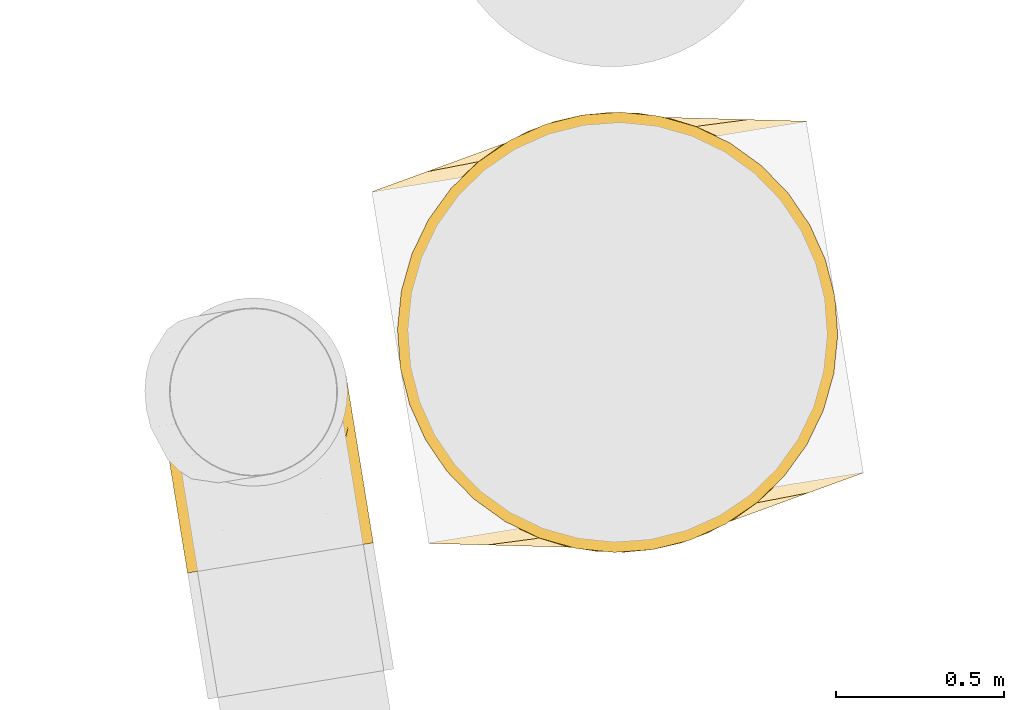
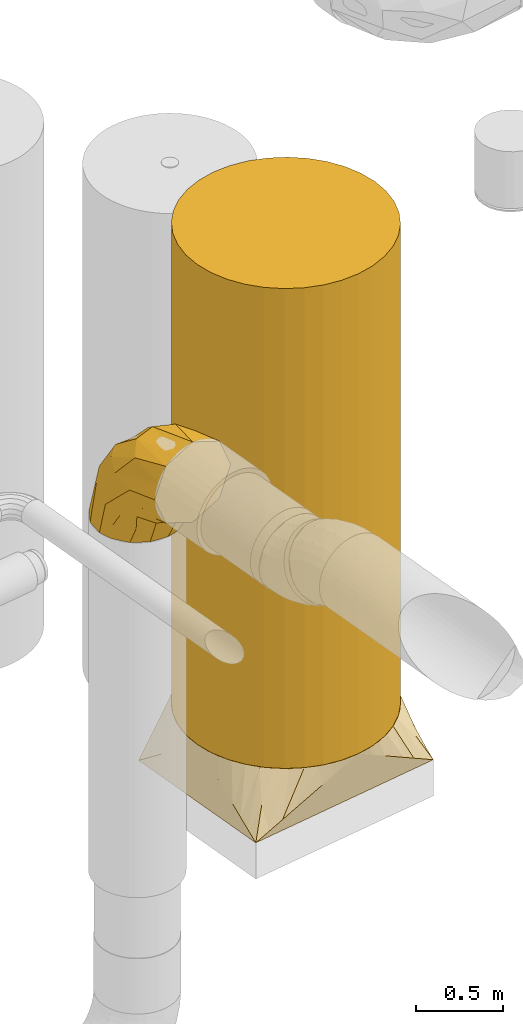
# One storey, part 2 of 39: 3 coverings.
"""IFC2X3 building model written with IfcOpenShell, lengths in millimetres."""

from ifc_helpers import new_model, entity, si_unit, converted_unit, derived_unit, direction, frame, origin, origin_with_axes, place, context, subcontext, project, spatial, faceted_brep, type_object, element, save


model = new_model("IFC2X3")

# Units and contexts
model_context = context("Model", 3, precision=0.01, world=origin(), true_north=direction((6.12323399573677e-17, 1.0)))
plan_context = context("Plan", 3, precision=1e-05, world=origin_with_axes())
body_context = subcontext(model_context, "Body", "Model", "MODEL_VIEW")
ifc_project = project(units=[converted_unit("PLANEANGLEUNIT", "DEGREE", entity("IfcPositiveLengthMeasure", 0.0174532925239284), si_unit("PLANEANGLEUNIT", "RADIAN"), dimensions=[0, 0, 0, 0, 0, 0, 0]), si_unit("AREAUNIT", "SQUARE_METRE"), si_unit("LENGTHUNIT", "METRE", prefix="MILLI"), si_unit("MASSUNIT", "GRAM", prefix="KILO"), si_unit("POWERUNIT", "WATT"), si_unit("PRESSUREUNIT", "PASCAL", prefix="KILO"), si_unit("FORCEUNIT", "NEWTON", prefix="KILO"), si_unit("ELECTRICVOLTAGEUNIT", "VOLT"), si_unit("ELECTRICCURRENTUNIT", "AMPERE"), si_unit("THERMODYNAMICTEMPERATUREUNIT", "DEGREE_CELSIUS"), si_unit("TIMEUNIT", "SECOND"), si_unit("VOLUMEUNIT", "CUBIC_METRE"), derived_unit("LINEARVELOCITYUNIT", [(si_unit("LENGTHUNIT", "METRE"), 1), (si_unit("TIMEUNIT", "SECOND"), -1)]), derived_unit("VOLUMETRICFLOWRATEUNIT", [(si_unit("VOLUMEUNIT", "CUBIC_METRE"), 1), (si_unit("TIMEUNIT", "SECOND"), -1)]), derived_unit("THERMALTRANSMITTANCEUNIT", [(si_unit("POWERUNIT", "WATT"), 1), (si_unit("THERMODYNAMICTEMPERATUREUNIT", "KELVIN"), -1), (si_unit("AREAUNIT", "SQUARE_METRE"), -1)]), derived_unit("SOUNDPRESSUREUNIT", [(si_unit("PRESSUREUNIT", "PASCAL"), 1)])], contexts=[model_context, plan_context])

# Site, building, storey
site_placement = place(None, frame((-0.00071070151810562, 0.00438415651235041, 0.0), z_axis=(0.0, 0.0, 1.0), x_axis=(-0.160236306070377, 0.987078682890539, 0.0)))
site = spatial("IfcSite", under=ifc_project, at=site_placement, Name="Default", CompositionType="ELEMENT")
building_placement = place(site_placement, origin_with_axes())
building = spatial("IfcBuilding", under=site, at=building_placement, CompositionType="ELEMENT")
storey_placement = place(building_placement, frame((0.0, 0.0, 50999.9999999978), z_axis=(0.0, 0.0, 1.0), x_axis=(1.0, 0.0, 0.0)))
storey = spatial("IfcBuildingStorey", under=building, at=storey_placement, Name="Nivå D", CompositionType="ELEMENT", Elevation=50999.9999999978)

# Coverings
covering_type = type_object("IfcCoveringType", Name="Duct Insulation:MuT030", PredefinedType="INSULATION")
covering_1_placement = place(storey_placement, frame((776122.970766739, -595318.775771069, 3431.59527223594), z_axis=(0.0, 0.0, 1.0), x_axis=(1.0, 0.0, 0.0)))
element("IfcCovering", 1, at=covering_1_placement, inside=storey, type_object=covering_type, Name="Duct Insulation:MuT030", ObjectType="Duct Insulation:MuT030", PredefinedType="INSULATION", context=body_context, shape_type="Brep", body=[
    faceted_brep([(314.242362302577, 489.679118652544, -781.595272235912), (415.076666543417, 547.893095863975, -781.595272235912), (501.595272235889, 561.595272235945, -781.595272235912), (615.484094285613, 537.386859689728, -781.595272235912), (709.679118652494, 468.948182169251, -781.595272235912), (767.893095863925, 368.11387792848, -781.595272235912), (781.595272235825, 281.595272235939, -781.595272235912), (757.386859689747, 167.706450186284, -781.595272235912), (688.948182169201, 73.5114258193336, -781.595272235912), (588.11387792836, 15.2974486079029, -781.595272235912), (501.595272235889, 1.59527223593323, -781.595272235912), (387.706450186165, 25.8036847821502, -781.595272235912), (293.511425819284, 94.2423623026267, -781.595272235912), (235.297448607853, 195.076666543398, -781.595272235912), (221.595272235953, 281.595272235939, -781.595272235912), (245.803684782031, 395.484094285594, -781.595272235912), (1.59527223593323, 479.585170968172, -83.6053735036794), (1.59527223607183, 521.297435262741, -184.307687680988), (1.59527223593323, 561.595272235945, -281.595272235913), (1.59527223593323, 520.590221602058, -380.59022160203), (1.59527223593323, 479.585170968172, -479.585170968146), (1.59527223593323, 380.59022160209, -520.590221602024), (1.59527223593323, 281.595272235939, -561.59527223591), (1.59527223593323, 182.600322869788, -520.590221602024), (1.59527223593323, 83.6053735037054, -479.585170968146), (1.59527223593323, 42.0761475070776, -379.32475033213), (1.59527223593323, 1.59527223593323, -281.595272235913), (1.59527223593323, 42.6003228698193, -182.600322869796), (1.59527223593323, 83.6053735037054, -83.6053735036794), (1.59527223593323, 181.160327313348, -43.1967885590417), (1.59527223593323, 281.595272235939, -1.5952722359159), (1.59527223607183, 382.03021715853, -43.1967885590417), (364.079346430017, 281.595272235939, -90.9395722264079), (361.618279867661, 402.716458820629, -120.868074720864), (575.189166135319, 524.398105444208, -498.949635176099), (256.720767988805, 498.892245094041, -154.955553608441), (528.165159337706, 281.595272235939, -255.025385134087), (228.590522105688, 561.595272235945, -336.092010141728), (136.470959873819, 561.595272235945, -313.976059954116), (387.378478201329, 540.159336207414, -312.381186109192), (447.098534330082, 561.595272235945, -554.600022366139), (692.776605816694, 406.753431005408, -489.23551545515), (500.080324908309, 476.345362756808, -288.480079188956), (562.56091971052, 393.274781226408, -273.649306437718), (692.250972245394, 281.595272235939, -419.111198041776), (469.214480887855, 561.595272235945, -646.719569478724), (337.844528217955, 561.595272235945, -445.346016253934), (145.848678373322, 533.866794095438, -431.648014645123), (276.852516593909, 473.635820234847, -672.104371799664), (182.243653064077, 402.633145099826, -612.39508775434), (235.136222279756, 502.105052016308, -552.07739475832), (112.294374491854, 459.608105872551, -520.197366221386), (89.6255911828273, 371.068056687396, -564.051167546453), (396.052196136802, 546.162908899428, -676.074870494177), (343.10364739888, 540.593694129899, -585.898526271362), (192.232774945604, 281.595272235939, -720.62341835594), (138.763028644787, 281.595272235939, -609.592346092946), (210.816376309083, 173.560467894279, -660.614093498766), (126.274853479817, 173.810009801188, -574.678497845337), (337.844528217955, 1.59527223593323, -445.346016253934), (228.590522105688, 1.59527223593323, -336.092010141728), (227.189540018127, 24.6609938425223, -465.043393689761), (113.335738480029, 23.6962073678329, -406.935822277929), (136.47096092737, 1.59527223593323, -313.976060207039), (110.971999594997, 92.8255278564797, -509.559732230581), (211.489803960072, 89.7736685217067, -572.844191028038), (327.63302568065, 25.3915466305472, -573.027755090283), (447.098534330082, 1.59527223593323, -554.600022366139), (271.926320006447, 93.5332174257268, -669.744341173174), (469.214482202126, 1.59527223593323, -646.719574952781), (356.110704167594, 35.3363256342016, -687.67134118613), (349.540548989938, 21.7927339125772, -287.376253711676), (488.831442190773, 75.0575648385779, -294.359085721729), (250.738461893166, 64.4689088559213, -152.327538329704), (543.975815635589, 25.8571614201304, -493.792877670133), (286.322785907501, 176.18136917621, -77.5943611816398), (521.965935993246, 182.714761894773, -225.001830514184), (676.755960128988, 133.304048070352, -484.82086561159)], [[[0, 1, 2, 3, 4, 5, 6, 7, 8, 9, 10, 11, 12, 13, 14, 15]], [[16, 17, 18, 19, 20, 21, 22, 23, 24, 25, 26, 27, 28, 29, 30, 31]], [[31, 32, 33]], [[34, 4, 3]], [[35, 17, 16]], [[33, 32, 36]], [[17, 37, 38, 18]], [[35, 39, 17]], [[39, 37, 17]], [[40, 39, 34]], [[41, 42, 43]], [[31, 33, 16]], [[44, 6, 5]], [[33, 42, 35]], [[34, 39, 42]], [[5, 4, 41]], [[34, 2, 45, 40]], [[34, 41, 4]], [[33, 35, 16]], [[32, 31, 30]], [[41, 43, 44]], [[5, 41, 44]], [[39, 40, 46, 37]], [[35, 42, 39]], [[41, 34, 42]], [[34, 3, 2]], [[43, 42, 33]], [[33, 36, 43]], [[44, 43, 36]], [[38, 47, 19]], [[48, 49, 50]], [[21, 51, 52]], [[49, 52, 51]], [[20, 51, 21]], [[47, 51, 20]], [[47, 46, 50]], [[14, 49, 15]], [[45, 2, 1]], [[53, 48, 54]], [[51, 50, 49]], [[46, 54, 50]], [[53, 0, 48]], [[49, 14, 55, 56]], [[52, 22, 21]], [[51, 47, 50]], [[54, 46, 40]], [[48, 0, 15]], [[47, 20, 19]], [[38, 37, 47]], [[19, 18, 38]], [[49, 48, 15]], [[48, 50, 54]], [[47, 37, 46]], [[1, 53, 45]], [[45, 53, 40]], [[0, 53, 1]], [[40, 53, 54]], [[49, 56, 52]], [[22, 52, 56]], [[57, 58, 56]], [[59, 60, 61]], [[62, 63, 25]], [[64, 58, 65]], [[61, 65, 66]], [[55, 57, 56]], [[13, 55, 14]], [[64, 65, 61]], [[67, 59, 66]], [[68, 13, 12]], [[64, 61, 62]], [[57, 68, 65]], [[11, 10, 69]], [[66, 70, 67]], [[57, 65, 58]], [[58, 64, 23]], [[59, 61, 66]], [[57, 55, 13]], [[23, 22, 58]], [[22, 56, 58]], [[70, 11, 69]], [[68, 66, 65]], [[11, 70, 12]], [[64, 24, 23]], [[13, 68, 57]], [[68, 12, 70]], [[62, 25, 24]], [[64, 62, 24]], [[61, 60, 62]], [[63, 62, 60]], [[63, 26, 25]], [[70, 69, 67]], [[68, 70, 66]], [[71, 72, 73]], [[71, 26, 63, 60]], [[74, 67, 69, 10]], [[73, 28, 27]], [[28, 73, 75]], [[71, 60, 59, 67]], [[72, 76, 75]], [[7, 44, 77]], [[74, 72, 71]], [[27, 71, 73]], [[74, 8, 77]], [[32, 30, 75]], [[27, 26, 71]], [[77, 76, 72]], [[44, 7, 6]], [[77, 72, 74]], [[44, 76, 77]], [[7, 77, 8]], [[75, 76, 32]], [[74, 10, 9]], [[30, 29, 28, 75]], [[76, 44, 36, 32]], [[67, 74, 71]], [[74, 9, 8]], [[72, 75, 73]]]),
])
covering_2_placement = place(storey_placement, frame((775969.85742849, -596791.681885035, 452.130781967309), z_axis=(0.0, 0.0, 1.0), x_axis=(1.0, 0.0, 0.0)))
element("IfcCovering", 2, at=covering_2_placement, inside=storey, type_object=covering_type, Name="Duct Insulation:MuT030", ObjectType="Duct Insulation:MuT030", PredefinedType="INSULATION", context=body_context, shape_type="Brep", body=[
    faceted_brep([(405.937624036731, 1261.73636603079, 400.0), (329.095272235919, 1223.84191171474, 400.0), (257.856536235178, 1176.24171012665, 400.0), (193.440330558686, 1119.75021391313, 400.0), (136.948834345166, 1055.33400823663, 400.0), (89.3486327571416, 984.095272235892, 400.0), (51.454178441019, 907.252920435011, 400.0), (23.9138560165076, 826.121746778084, 400.0), (15.5563720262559, 784.105837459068, 400.0), (7.19888803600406, 742.089928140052, 400.0), (5.4347867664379, 715.174943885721, 400.0), (3.67068549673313, 688.259959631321, 400.0), (1.59527223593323, 656.595272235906, 400.0), (3.67068549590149, 624.93058485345, 400.0), (5.43478676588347, 598.015600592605, 400.0), (7.19888803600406, 571.100616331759, 400.0), (15.5563720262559, 529.084707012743, 400.0), (23.9138560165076, 487.068797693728, 400.0), (51.454178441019, 405.937624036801, 400.0), (89.3486327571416, 329.095272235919, 400.0), (136.948834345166, 257.856536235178, 400.0), (193.440330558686, 193.440330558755, 400.0), (257.856536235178, 136.948834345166, 400.0), (329.095272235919, 89.3486327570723, 400.0), (405.937624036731, 51.454178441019, 400.0), (487.068797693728, 23.9138560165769, 400.0), (529.084707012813, 15.5563720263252, 400.0), (571.100616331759, 7.19888803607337, 400.0), (598.01560058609, 5.4347867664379, 400.0), (624.93058484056, 3.67068549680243, 400.0), (656.595272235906, 1.59527223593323, 400.0), (688.259959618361, 3.67068549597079, 400.0), (715.174943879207, 5.43478676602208, 400.0), (742.089928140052, 7.19888803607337, 400.0), (784.105837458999, 15.5563720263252, 400.0), (826.121746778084, 23.9138560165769, 400.0), (907.25292043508, 51.454178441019, 400.0), (984.095272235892, 89.3486327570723, 400.0), (1055.33400823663, 136.948834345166, 400.0), (1119.75021391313, 193.440330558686, 400.0), (1176.24171012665, 257.856536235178, 400.0), (1223.84191171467, 329.095272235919, 400.0), (1261.73636603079, 405.937624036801, 400.0), (1289.2766884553, 487.068797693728, 400.0), (1297.63417244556, 529.084707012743, 400.0), (1305.99165643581, 571.100616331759, 400.0), (1307.75575770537, 598.015600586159, 400.0), (1309.51985897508, 624.930584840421, 400.0), (1311.59527223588, 656.595272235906, 400.0), (1309.51985897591, 688.259959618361, 400.0), (1307.75575770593, 715.174943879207, 400.0), (1305.99165643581, 742.089928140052, 400.0), (1297.63417244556, 784.105837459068, 400.0), (1289.2766884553, 826.121746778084, 400.0), (1261.73636603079, 907.252920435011, 400.0), (1223.84191171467, 984.095272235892, 400.0), (1176.24171012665, 1055.33400823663, 400.0), (1119.75021391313, 1119.75021391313, 400.0), (1055.33400823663, 1176.24171012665, 400.0), (984.095272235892, 1223.84191171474, 400.0), (907.25292043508, 1261.73636603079, 400.0), (826.121746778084, 1289.27668845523, 400.0), (784.105837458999, 1297.63417244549, 400.0), (742.089928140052, 1305.99165643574, 400.0), (715.174943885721, 1307.75575770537, 400.0), (688.25995963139, 1309.51985897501, 400.0), (656.595272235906, 1311.59527223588, 400.0), (624.93058485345, 1309.51985897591, 400.0), (598.015600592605, 1307.75575770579, 400.0), (571.100616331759, 1305.99165643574, 400.0), (529.084707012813, 1297.63417244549, 400.0), (487.068797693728, 1289.27668845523, 400.0), (126.595272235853, 1311.59527223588, 0.0), (1186.59527223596, 1311.59527223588, 0.0), (1186.59527223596, 1.59527223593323, 0.0), (126.595272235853, 1.59527223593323, 0.0), (1219.1309680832, 1141.10822599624, 104.11422671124), (1202.86312015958, 1226.35174911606, 52.0571133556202), (847.168252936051, 1311.59527223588, 256.171335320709), (783.64392603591, 1311.59527223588, 304.114223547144), (1289.12204412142, 774.354987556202, 328.085670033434), (1281.63096808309, 813.608225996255, 304.114226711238), (1304.10419619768, 695.848510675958, 376.028556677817), (1296.61312015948, 735.10174911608, 352.05711335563), (1266.64881600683, 892.11470287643, 256.171340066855), (751.881762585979, 1311.59527223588, 328.085667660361), (720.119599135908, 1311.59527223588, 352.05711177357), (688.357435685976, 1311.59527223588, 376.028555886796), (1166.76456217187, 1201.23179443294, 200.000000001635), (1048.64392603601, 1311.59527223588, 104.114223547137), (1117.61959913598, 1311.59527223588, 52.0571117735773), (979.66825293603, 1311.59527223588, 156.171335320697), (910.692579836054, 1311.59527223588, 208.228447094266), (1251.66666393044, 970.621179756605, 208.228453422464), (1235.39881600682, 1055.86470287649, 156.171340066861), (195.570947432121, 1311.59527223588, 52.0571133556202), (264.546622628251, 1311.59527223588, 104.11422671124), (333.522297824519, 1311.59527223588, 156.171340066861), (402.497973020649, 1311.59527223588, 208.228453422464), (466.022297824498, 1311.59527223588, 256.171340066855), (529.546622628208, 1311.59527223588, 304.114226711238), (561.308785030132, 1311.59527223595, 328.085670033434), (593.070947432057, 1311.59527223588, 352.05711335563), (624.833109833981, 1311.59527223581, 376.028556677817), (46.5417299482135, 892.114710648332, 256.171335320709), (31.5595773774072, 813.608231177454, 304.114223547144), (24.0685010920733, 774.354991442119, 328.085667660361), (16.5774248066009, 735.101751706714, 352.05711177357), (9.08634852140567, 695.84851197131, 376.028555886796), (174.458750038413, 1229.26456217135, 200.000000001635), (94.0595773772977, 1141.10823117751, 104.114223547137), (110.327424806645, 1226.35175170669, 52.0571117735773), (77.791729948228, 1055.86471064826, 156.171335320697), (61.5238825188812, 970.621190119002, 208.228447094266), (110.327424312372, 86.8387953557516, 52.0571133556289), (94.059576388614, 172.08231847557, 104.11422671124), (77.7917284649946, 257.325841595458, 156.171340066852), (61.5238805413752, 342.569364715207, 208.228453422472), (46.54172846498, 421.075841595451, 256.171340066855), (31.5595763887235, 499.582318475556, 304.114226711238), (24.0685003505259, 538.835556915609, 328.085670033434), (16.5774243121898, 578.0887953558, 352.057113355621), (9.0863482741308, 617.342033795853, 376.028556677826), (466.02229153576, 1.59527223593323, 256.171335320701), (529.546618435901, 1.59527223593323, 304.114223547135), (561.308781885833, 1.59527223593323, 328.085667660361), (593.070945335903, 1.59527223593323, 352.057111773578), (624.833108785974, 1.59527223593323, 376.028555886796), (146.425982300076, 111.9587500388, 200.000000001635), (264.546618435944, 1.59527223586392, 104.114223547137), (195.570945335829, 1.59527223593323, 52.0571117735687), (333.522291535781, 1.59527223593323, 156.171335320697), (402.497964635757, 1.59527223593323, 208.228447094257), (1117.61959703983, 1.59527223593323, 52.0571133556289), (1048.64392184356, 1.59527223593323, 104.11422671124), (979.668246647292, 1.59527223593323, 156.171340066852), (910.692571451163, 1.59527223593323, 208.228453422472), (847.168246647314, 1.59527223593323, 256.171340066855), (783.643921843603, 1.59527223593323, 304.114226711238), (751.881759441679, 1.59527223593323, 328.085670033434), (720.119597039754, 1.59527223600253, 352.057113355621), (688.357434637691, 1.59527223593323, 376.028556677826), (1266.6488145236, 421.07583382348, 256.171335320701), (1281.63096709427, 499.582313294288, 304.114223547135), (1289.12204337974, 538.835553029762, 328.085667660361), (1296.61311966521, 578.088792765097, 352.057111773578), (1304.10419595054, 617.342032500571, 376.028555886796), (1138.73179443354, 83.9259823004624, 200.000000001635), (1219.13096709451, 172.082313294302, 104.114223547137), (1202.86311966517, 86.8387927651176, 52.0571117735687), (1235.39881452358, 257.325833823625, 156.171335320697), (1251.66666195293, 342.56935435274, 208.228447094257)], [[[0, 1, 2, 3, 4, 5, 6, 7, 8, 9, 10, 11, 12, 13, 14, 15, 16, 17, 18, 19, 20, 21, 22, 23, 24, 25, 26, 27, 28, 29, 30, 31, 32, 33, 34, 35, 36, 37, 38, 39, 40, 41, 42, 43, 44, 45, 46, 47, 48, 49, 50, 51, 52, 53, 54, 55, 56, 57, 58, 59, 60, 61, 62, 63, 64, 65, 66, 67, 68, 69, 70, 71]], [[72, 73, 74, 75]], [[56, 76, 77]], [[76, 56, 55]], [[78, 79, 61]], [[80, 81, 52]], [[51, 50, 49, 48, 82, 83, 80]], [[52, 51, 80]], [[53, 81, 84]], [[53, 84, 54]], [[63, 85, 86, 87, 66, 65, 64]], [[61, 79, 62]], [[56, 77, 88]], [[89, 58, 90]], [[60, 91, 92, 78]], [[93, 94, 54, 84]], [[57, 88, 58]], [[58, 89, 59]], [[59, 91, 60]], [[60, 78, 61]], [[85, 62, 79]], [[54, 94, 55]], [[62, 85, 63]], [[81, 53, 52]], [[88, 90, 58]], [[73, 88, 77]], [[56, 88, 57]], [[88, 73, 90]], [[59, 89, 91]], [[94, 76, 55]], [[73, 72, 95, 96, 97, 98, 99, 100, 101, 102, 103, 66, 87, 86, 85, 79, 78, 92, 91, 89, 90]], [[2, 96, 95]], [[96, 2, 1]], [[104, 105, 7]], [[101, 100, 70]], [[69, 68, 67, 66, 103, 102, 101]], [[70, 69, 101]], [[71, 100, 99]], [[71, 99, 0]], [[9, 106, 107, 108, 12, 11, 10]], [[7, 105, 8]], [[2, 95, 109]], [[110, 4, 111]], [[6, 112, 113, 104]], [[98, 97, 0, 99]], [[3, 109, 4]], [[4, 110, 5]], [[5, 112, 6]], [[6, 104, 7]], [[106, 8, 105]], [[0, 97, 1]], [[8, 106, 9]], [[100, 71, 70]], [[109, 111, 4]], [[72, 109, 95]], [[2, 109, 3]], [[109, 72, 111]], [[5, 110, 112]], [[97, 96, 1]], [[72, 75, 114, 115, 116, 117, 118, 119, 120, 121, 122, 12, 108, 107, 106, 105, 104, 113, 112, 110, 111]], [[20, 115, 114]], [[115, 20, 19]], [[123, 124, 25]], [[120, 119, 16]], [[15, 14, 13, 12, 122, 121, 120]], [[16, 15, 120]], [[17, 119, 118]], [[17, 118, 18]], [[27, 125, 126, 127, 30, 29, 28]], [[25, 124, 26]], [[20, 114, 128]], [[129, 22, 130]], [[24, 131, 132, 123]], [[117, 116, 18, 118]], [[21, 128, 22]], [[22, 129, 23]], [[23, 131, 24]], [[24, 123, 25]], [[125, 26, 124]], [[18, 116, 19]], [[26, 125, 27]], [[119, 17, 16]], [[128, 130, 22]], [[75, 128, 114]], [[20, 128, 21]], [[128, 75, 130]], [[23, 129, 131]], [[116, 115, 19]], [[75, 74, 133, 134, 135, 136, 137, 138, 139, 140, 141, 30, 127, 126, 125, 124, 123, 132, 131, 129, 130]], [[38, 134, 133]], [[134, 38, 37]], [[142, 143, 43]], [[139, 138, 34]], [[33, 32, 31, 30, 141, 140, 139]], [[34, 33, 139]], [[35, 138, 137]], [[35, 137, 36]], [[45, 144, 145, 146, 48, 47, 46]], [[43, 143, 44]], [[38, 133, 147]], [[148, 40, 149]], [[42, 150, 151, 142]], [[136, 135, 36, 137]], [[39, 147, 40]], [[40, 148, 41]], [[41, 150, 42]], [[42, 142, 43]], [[144, 44, 143]], [[36, 135, 37]], [[44, 144, 45]], [[138, 35, 34]], [[147, 149, 40]], [[74, 147, 133]], [[38, 147, 39]], [[147, 74, 149]], [[41, 148, 150]], [[135, 134, 37]], [[74, 73, 77, 76, 94, 93, 84, 81, 80, 83, 82, 48, 146, 145, 144, 143, 142, 151, 150, 148, 149]]]),
])
covering_3_placement = place(storey_placement, origin_with_axes())
element("IfcCovering", 3, at=covering_3_placement, inside=storey, type_object=covering_type, Name="Duct Insulation:MuT030", ObjectType="Duct Insulation:MuT030", PredefinedType="INSULATION", context=body_context, shape_type="Brep", body=[
    faceted_brep([(776740.19226004, -595490.037535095, 4200.0), (776626.452703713, -595480.086612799, 4200.0), (776626.452703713, -595480.086612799, 852.130781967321), (776740.19226004, -595490.037535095, 852.130781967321), (776512.713147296, -595490.037534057, 4200.0), (776512.713147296, -595490.037534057, 852.130781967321), (776402.429509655, -595519.587945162, 4200.0), (776402.429509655, -595519.587945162, 852.130781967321), (776298.952703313, -595567.839971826, 4200.0), (776298.952703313, -595567.839971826, 852.130781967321), (776205.42681867, -595633.327500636, 4200.0), (776205.42681867, -595633.327500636, 852.130781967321), (776124.693592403, -595714.060726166, 4200.0), (776124.693592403, -595714.060726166, 852.130781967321), (776059.206062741, -595807.586610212, 4200.0), (776059.206062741, -595807.586610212, 852.130781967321), (776010.954035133, -595911.063416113, 4200.0), (776010.954035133, -595911.063416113, 852.130781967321), (775981.403623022, -596021.347053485, 4200.0), (775981.403623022, -596021.347053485, 852.130781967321), (775971.452700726, -596135.086609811, 4200.0), (775971.452700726, -596135.086609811, 852.130781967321), (775981.403621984, -596248.826166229, 4200.0), (775981.403621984, -596248.826166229, 852.130781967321), (776010.954033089, -596359.10980387, 4200.0), (776010.954033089, -596359.10980387, 852.130781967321), (776059.206059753, -596462.586610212, 4200.0), (776059.206059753, -596462.586610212, 852.130781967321), (776124.693588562, -596556.112494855, 4200.0), (776124.693588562, -596556.112494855, 852.130781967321), (776205.426814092, -596636.845721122, 4200.0), (776205.426814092, -596636.845721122, 852.130781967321), (776298.952698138, -596702.333250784, 4200.0), (776298.952698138, -596702.333250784, 852.130781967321), (776402.42950404, -596750.585278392, 4200.0), (776402.42950404, -596750.585278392, 852.130781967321), (776512.713141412, -596780.135690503, 4200.0), (776512.713141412, -596780.135690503, 852.130781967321), (776626.452697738, -596790.086612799, 4200.0), (776626.452697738, -596790.086612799, 852.130781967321), (776740.192254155, -596780.135691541, 4200.0), (776740.192254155, -596780.135691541, 852.130781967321), (776850.475891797, -596750.585280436, 4200.0), (776850.475891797, -596750.585280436, 852.130781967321), (776953.952698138, -596702.333253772, 4200.0), (776953.952698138, -596702.333253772, 852.130781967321), (777047.478582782, -596636.845724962, 4200.0), (777047.478582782, -596636.845724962, 852.130781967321), (777128.211809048, -596556.112499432, 4200.0), (777128.211809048, -596556.112499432, 852.130781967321), (777193.699338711, -596462.586615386, 4200.0), (777193.699338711, -596462.586615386, 852.130781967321), (777241.951366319, -596359.109809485, 4200.0), (777241.951366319, -596359.109809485, 852.130781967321), (777271.50177843, -596248.826172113, 4200.0), (777271.50177843, -596248.826172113, 852.130781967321), (777281.452700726, -596135.086615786, 4200.0), (777281.452700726, -596135.086615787, 852.130781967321), (777271.501779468, -596021.347059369, 4200.0), (777271.501779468, -596021.347059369, 852.130781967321), (777241.951368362, -595911.063421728, 4200.0), (777241.951368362, -595911.063421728, 852.130781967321), (777193.699341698, -595807.586615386, 4200.0), (777193.699341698, -595807.586615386, 852.130781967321), (777128.211812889, -595714.060730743, 4200.0), (777128.211812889, -595714.060730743, 852.130781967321), (777047.478587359, -595633.327504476, 4200.0), (777047.478587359, -595633.327504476, 852.130781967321), (776953.952703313, -595567.839974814, 4200.0), (776953.952703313, -595567.839974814, 852.130781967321), (776850.475897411, -595519.587947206, 4200.0), (776850.475897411, -595519.587947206, 852.130781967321)], [[[0, 1, 2, 3]], [[1, 4, 5, 2]], [[4, 6, 7, 5]], [[6, 8, 9, 7]], [[8, 10, 11, 9]], [[10, 12, 13, 11]], [[12, 14, 15, 13]], [[14, 16, 17, 15]], [[16, 18, 19, 17]], [[18, 20, 21, 19]], [[20, 22, 23, 21]], [[22, 24, 25, 23]], [[24, 26, 27, 25]], [[26, 28, 29, 27]], [[28, 30, 31, 29]], [[30, 32, 33, 31]], [[32, 34, 35, 33]], [[34, 36, 37, 35]], [[36, 38, 39, 37]], [[38, 40, 41, 39]], [[40, 42, 43, 41]], [[42, 44, 45, 43]], [[44, 46, 47, 45]], [[46, 48, 49, 47]], [[48, 50, 51, 49]], [[50, 52, 53, 51]], [[52, 54, 55, 53]], [[54, 56, 57, 55]], [[56, 58, 59, 57]], [[58, 60, 61, 59]], [[60, 62, 63, 61]], [[62, 64, 65, 63]], [[64, 66, 67, 65]], [[66, 68, 69, 67]], [[68, 70, 71, 69]], [[70, 0, 3, 71]], [[3, 2, 5, 7, 9, 11, 13, 15, 17, 19, 21, 23, 25, 27, 29, 31, 33, 35, 37, 39, 41, 43, 45, 47, 49, 51, 53, 55, 57, 59, 61, 63, 65, 67, 69, 71]], [[70, 68, 66, 64, 62, 60, 58, 56, 54, 52, 50, 48, 46, 44, 42, 40, 38, 36, 34, 32, 30, 28, 26, 24, 22, 20, 18, 16, 14, 12, 10, 8, 6, 4, 1, 0]]], orient=[[False], [False], [False], [False], [False], [False], [False], [False], [False], [False], [False], [False], [False], [False], [False], [False], [False], [False], [False], [False], [False], [False], [False], [False], [False], [False], [False], [False], [False], [False], [False], [False], [False], [False], [False], [False], [False], [False]]),
])

save(model, "model.ifc")
